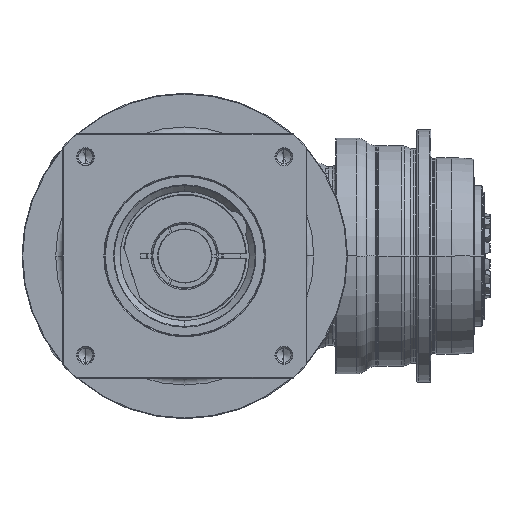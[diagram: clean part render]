
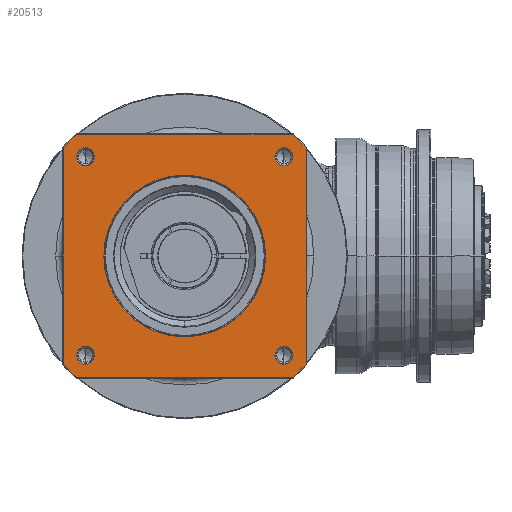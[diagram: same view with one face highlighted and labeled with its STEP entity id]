
A CAD part, front view. The second image highlights one B-rep face of the part: STEP entity #20513.
In plain terms, the highlighted planar face has unit normal (0, -1, 0) as drawn and (0, 0, 1) by its records, which use the part's own axes.
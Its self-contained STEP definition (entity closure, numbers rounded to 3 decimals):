
#19264=CARTESIAN_POINT('',(0.,0.,
76.));
#19265=DIRECTION('',(0.,0.,-1.));
#19266=DIRECTION('',(0.,-1.,0.));
#19267=AXIS2_PLACEMENT_3D('',#19264,#19265,#19266);
#19269=CARTESIAN_POINT('',(0.,0.,
76.));
#19270=DIRECTION('',(0.,0.,-1.));
#19271=DIRECTION('',(0.,1.,0.));
#19272=AXIS2_PLACEMENT_3D('',#19269,#19270,#19271);
#19274=CARTESIAN_POINT('',(0.,0.,76.));
#19275=DIRECTION('',(0.,0.,1.));
#19276=DIRECTION('',(-0.746,-0.666,0.));
#19277=AXIS2_PLACEMENT_3D('',#19274,#19275,#19276);
#19289=DIRECTION('',(1.,0.,0.));
#19290=VECTOR('',#19289,154.58);
#19291=CARTESIAN_POINT('',(-77.29,-86.5,76.));
#19292=LINE('',#19291,#19290);
#19302=CARTESIAN_POINT('',(0.,0.,76.));
#19303=DIRECTION('',(0.,0.,1.));
#19304=DIRECTION('',(0.666,-0.746,0.));
#19305=AXIS2_PLACEMENT_3D('',#19302,#19303,#19304);
#19317=DIRECTION('',(0.,1.,0.));
#19318=VECTOR('',#19317,154.58);
#19319=CARTESIAN_POINT('',(86.5,-77.29,76.));
#19320=LINE('',#19319,#19318);
#19330=CARTESIAN_POINT('',(0.,0.,76.));
#19331=DIRECTION('',(0.,0.,1.));
#19332=DIRECTION('',(0.746,0.666,0.));
#19333=AXIS2_PLACEMENT_3D('',#19330,#19331,#19332);
#19345=DIRECTION('',(-1.,0.,0.));
#19346=VECTOR('',#19345,154.58);
#19347=CARTESIAN_POINT('',(77.29,86.5,76.));
#19348=LINE('',#19347,#19346);
#19353=CARTESIAN_POINT('',(0.,0.,76.));
#19354=DIRECTION('',(0.,0.,1.));
#19355=DIRECTION('',(-0.666,0.746,0.));
#19356=AXIS2_PLACEMENT_3D('',#19353,#19354,#19355);
#19373=DIRECTION('',(0.,-1.,0.));
#19374=VECTOR('',#19373,154.58);
#19375=CARTESIAN_POINT('',(-86.5,77.29,76.));
#19376=LINE('',#19375,#19374);
#19459=CARTESIAN_POINT('',(-70.711,70.711,76.));
#19460=DIRECTION('',(0.,0.,1.));
#19461=DIRECTION('',(-1.,0.,0.));
#19462=AXIS2_PLACEMENT_3D('',#19459,#19460,#19461);
#19477=CARTESIAN_POINT('',(-70.711,70.711,76.));
#19478=DIRECTION('',(0.,0.,1.));
#19479=DIRECTION('',(1.,0.,0.));
#19480=AXIS2_PLACEMENT_3D('',#19477,#19478,#19479);
#19513=CARTESIAN_POINT('',(70.711,70.711,76.));
#19514=DIRECTION('',(0.,0.,1.));
#19515=DIRECTION('',(-1.,0.,0.));
#19516=AXIS2_PLACEMENT_3D('',#19513,#19514,#19515);
#19531=CARTESIAN_POINT('',(70.711,70.711,76.));
#19532=DIRECTION('',(0.,0.,1.));
#19533=DIRECTION('',(1.,0.,0.));
#19534=AXIS2_PLACEMENT_3D('',#19531,#19532,#19533);
#19567=CARTESIAN_POINT('',(70.711,-70.711,76.));
#19568=DIRECTION('',(0.,0.,1.));
#19569=DIRECTION('',(-1.,0.,0.));
#19570=AXIS2_PLACEMENT_3D('',#19567,#19568,#19569);
#19585=CARTESIAN_POINT('',(70.711,-70.711,76.));
#19586=DIRECTION('',(0.,0.,1.));
#19587=DIRECTION('',(1.,0.,0.));
#19588=AXIS2_PLACEMENT_3D('',#19585,#19586,#19587);
#19621=CARTESIAN_POINT('',(-70.711,-70.711,76.));
#19622=DIRECTION('',(0.,0.,1.));
#19623=DIRECTION('',(-1.,0.,0.));
#19624=AXIS2_PLACEMENT_3D('',#19621,#19622,#19623);
#19639=CARTESIAN_POINT('',(-70.711,-70.711,76.));
#19640=DIRECTION('',(0.,0.,1.));
#19641=DIRECTION('',(1.,0.,0.));
#19642=AXIS2_PLACEMENT_3D('',#19639,#19640,#19641);
#19771=CARTESIAN_POINT('',(86.5,-77.29,76.));
#19772=CARTESIAN_POINT('',(86.5,77.29,76.));
#19773=VERTEX_POINT('',#19771);
#19774=VERTEX_POINT('',#19772);
#19779=CARTESIAN_POINT('',(77.29,-86.5,76.));
#19780=VERTEX_POINT('',#19779);
#19783=CARTESIAN_POINT('',(-77.29,-86.5,76.));
#19784=VERTEX_POINT('',#19783);
#19787=CARTESIAN_POINT('',(-86.5,-77.29,76.));
#19788=VERTEX_POINT('',#19787);
#19791=CARTESIAN_POINT('',(-86.5,77.29,76.));
#19792=VERTEX_POINT('',#19791);
#19795=CARTESIAN_POINT('',(-77.29,86.5,76.));
#19796=VERTEX_POINT('',#19795);
#19799=CARTESIAN_POINT('',(77.29,86.5,76.));
#19800=VERTEX_POINT('',#19799);
#19809=CARTESIAN_POINT('',(-77.111,70.711,76.));
#19810=CARTESIAN_POINT('',(-64.311,70.711,76.));
#19811=VERTEX_POINT('',#19809);
#19812=VERTEX_POINT('',#19810);
#19835=CARTESIAN_POINT('',(77.111,70.711,76.));
#19836=CARTESIAN_POINT('',(64.311,70.711,76.));
#19837=VERTEX_POINT('',#19835);
#19838=VERTEX_POINT('',#19836);
#19843=CARTESIAN_POINT('',(77.111,-70.711,76.));
#19844=CARTESIAN_POINT('',(64.311,-70.711,76.));
#19845=VERTEX_POINT('',#19843);
#19846=VERTEX_POINT('',#19844);
#19851=CARTESIAN_POINT('',(-64.311,-70.711,76.));
#19852=CARTESIAN_POINT('',(-77.111,-70.711,76.));
#19853=VERTEX_POINT('',#19851);
#19854=VERTEX_POINT('',#19852);
#19859=CARTESIAN_POINT('',(0.,-57.65,76.));
#19860=CARTESIAN_POINT('',(0.,57.65,
76.));
#19861=VERTEX_POINT('',#19859);
#19862=VERTEX_POINT('',#19860);
#20461=CARTESIAN_POINT('',(0.,0.,76.));
#20462=DIRECTION('',(0.,0.,1.));
#20463=DIRECTION('',(1.,0.,0.));
#20464=AXIS2_PLACEMENT_3D('',#20461,#20462,#20463);
#20465=PLANE('',#20464);
#20467=ORIENTED_EDGE('',*,*,#20466,.F.);
#20469=ORIENTED_EDGE('',*,*,#20468,.F.);
#20471=ORIENTED_EDGE('',*,*,#20470,.F.);
#20473=ORIENTED_EDGE('',*,*,#20472,.F.);
#20475=ORIENTED_EDGE('',*,*,#20474,.F.);
#20477=ORIENTED_EDGE('',*,*,#20476,.F.);
#20479=ORIENTED_EDGE('',*,*,#20478,.F.);
#20481=ORIENTED_EDGE('',*,*,#20480,.F.);
#20482=EDGE_LOOP('',(#20467,#20469,#20471,#20473,#20475,#20477,#20479,#20481));
#20483=FACE_OUTER_BOUND('',#20482,.F.);
#20484=ORIENTED_EDGE('',*,*,#20451,.F.);
#20486=ORIENTED_EDGE('',*,*,#20485,.F.);
#20487=EDGE_LOOP('',(#20484,#20486));
#20488=FACE_BOUND('',#20487,.F.);
#20490=ORIENTED_EDGE('',*,*,#20489,.T.);
#20492=ORIENTED_EDGE('',*,*,#20491,.T.);
#20493=EDGE_LOOP('',(#20490,#20492));
#20494=FACE_BOUND('',#20493,.F.);
#20496=ORIENTED_EDGE('',*,*,#20495,.T.);
#20498=ORIENTED_EDGE('',*,*,#20497,.T.);
#20499=EDGE_LOOP('',(#20496,#20498));
#20500=FACE_BOUND('',#20499,.F.);
#20502=ORIENTED_EDGE('',*,*,#20501,.T.);
#20504=ORIENTED_EDGE('',*,*,#20503,.T.);
#20505=EDGE_LOOP('',(#20502,#20504));
#20506=FACE_BOUND('',#20505,.F.);
#20508=ORIENTED_EDGE('',*,*,#20507,.T.);
#20510=ORIENTED_EDGE('',*,*,#20509,.T.);
#20511=EDGE_LOOP('',(#20508,#20510));
#20512=FACE_BOUND('',#20511,.F.);
#20513=ADVANCED_FACE('',(#20483,#20488,#20494,#20500,#20506,#20512),#20465,.T.);
#19268=CIRCLE('',#19267,57.65);
#19273=CIRCLE('',#19272,57.65);
#19278=CIRCLE('',#19277,116.);
#19306=CIRCLE('',#19305,116.);
#19334=CIRCLE('',#19333,116.);
#19357=CIRCLE('',#19356,116.);
#19463=CIRCLE('',#19462,6.4);
#19481=CIRCLE('',#19480,6.4);
#19517=CIRCLE('',#19516,6.4);
#19535=CIRCLE('',#19534,6.4);
#19571=CIRCLE('',#19570,6.4);
#19589=CIRCLE('',#19588,6.4);
#19625=CIRCLE('',#19624,6.4);
#19643=CIRCLE('',#19642,6.4);
#20451=EDGE_CURVE('',#19861,#19862,#19268,.T.);
#20466=EDGE_CURVE('',#19788,#19784,#19278,.T.);
#20468=EDGE_CURVE('',#19792,#19788,#19376,.T.);
#20470=EDGE_CURVE('',#19796,#19792,#19357,.T.);
#20472=EDGE_CURVE('',#19800,#19796,#19348,.T.);
#20474=EDGE_CURVE('',#19774,#19800,#19334,.T.);
#20476=EDGE_CURVE('',#19773,#19774,#19320,.T.);
#20478=EDGE_CURVE('',#19780,#19773,#19306,.T.);
#20480=EDGE_CURVE('',#19784,#19780,#19292,.T.);
#20485=EDGE_CURVE('',#19862,#19861,#19273,.T.);
#20489=EDGE_CURVE('',#19811,#19812,#19463,.T.);
#20491=EDGE_CURVE('',#19812,#19811,#19481,.T.);
#20495=EDGE_CURVE('',#19838,#19837,#19517,.T.);
#20497=EDGE_CURVE('',#19837,#19838,#19535,.T.);
#20501=EDGE_CURVE('',#19846,#19845,#19571,.T.);
#20503=EDGE_CURVE('',#19845,#19846,#19589,.T.);
#20507=EDGE_CURVE('',#19854,#19853,#19625,.T.);
#20509=EDGE_CURVE('',#19853,#19854,#19643,.T.);
